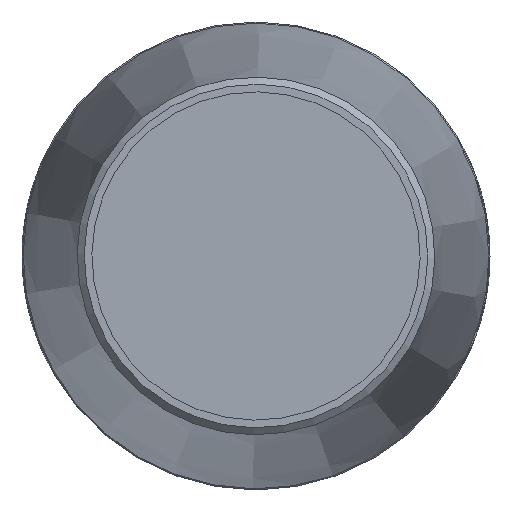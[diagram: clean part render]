
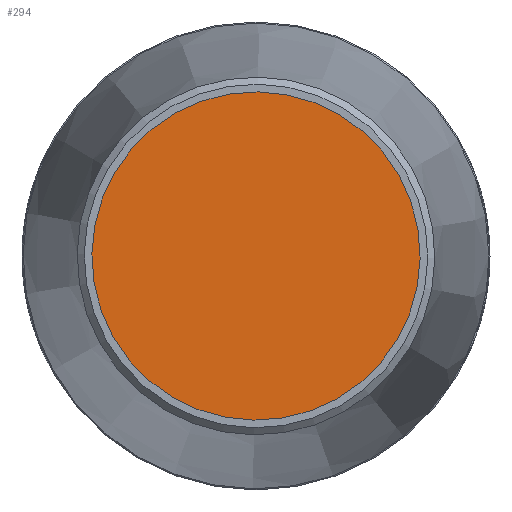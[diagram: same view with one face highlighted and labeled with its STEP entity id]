
A CAD part, left-side view. The second image highlights one B-rep face of the part: STEP entity #294.
In plain terms, the highlighted planar face has unit normal (-1, 0, 0).
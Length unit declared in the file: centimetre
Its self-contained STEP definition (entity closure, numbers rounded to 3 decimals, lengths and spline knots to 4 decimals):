
#48=PLANE('',#329);
#77=FACE_OUTER_BOUND('',#108,.T.);
#108=EDGE_LOOP('',(#214));
#134=CIRCLE('',#328,2.525);
#148=VERTEX_POINT('',#455);
#174=EDGE_CURVE('',#148,#148,#134,.T.);
#214=ORIENTED_EDGE('',*,*,#174,.T.);
#294=ADVANCED_FACE('',(#77),#48,.T.);
#328=AXIS2_PLACEMENT_3D('',#456,#387,#388);
#329=AXIS2_PLACEMENT_3D('',#457,#389,#390);
#387=DIRECTION('center_axis',(-1.,0.,0.));
#388=DIRECTION('ref_axis',(0.,-0.774,0.633));
#389=DIRECTION('center_axis',(-1.,0.,0.));
#390=DIRECTION('ref_axis',(0.,-0.774,0.633));
#455=CARTESIAN_POINT('',(-17.7,-1.599,-1.9542));
#456=CARTESIAN_POINT('Origin',(-17.7,0.,0.));
#457=CARTESIAN_POINT('Origin',(-17.7,0.,0.));
